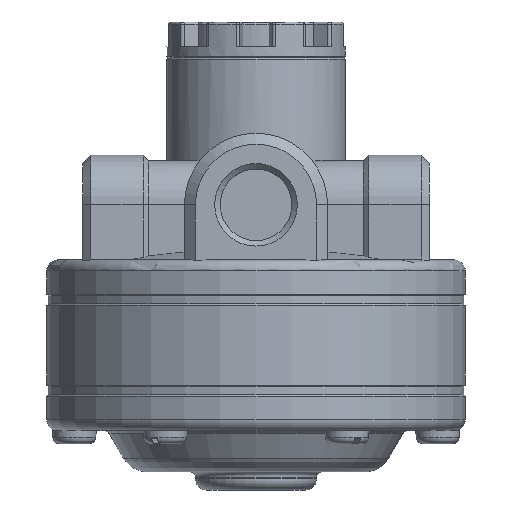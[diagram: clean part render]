
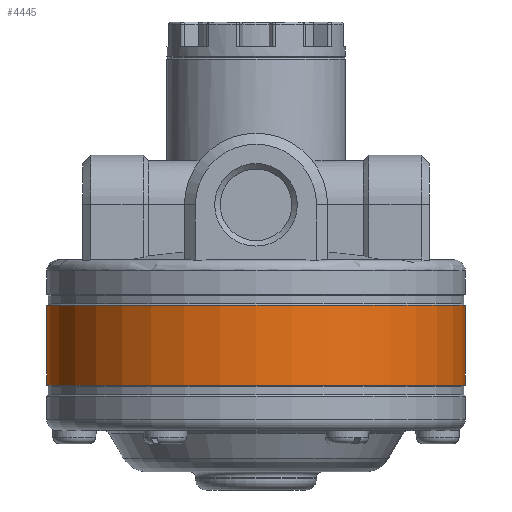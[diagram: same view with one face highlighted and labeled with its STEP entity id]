
A CAD part, front view. The second image highlights one B-rep face of the part: STEP entity #4445.
In plain terms, the highlighted cylindrical face has radius 38 mm (diameter 76 mm), a full revolution.
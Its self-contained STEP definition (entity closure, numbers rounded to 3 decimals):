
#424=CYLINDRICAL_SURFACE('',#5040,38.);
#684=FACE_OUTER_BOUND('',#977,.T.);
#977=EDGE_LOOP('',(#4071,#4072,#4073,#4074));
#1286=LINE('',#8206,#1553);
#1553=VECTOR('',#6419,38.);
#1845=CIRCLE('',#5039,38.);
#1846=CIRCLE('',#5041,38.);
#2232=VERTEX_POINT('',#8200);
#2233=VERTEX_POINT('',#8204);
#2854=EDGE_CURVE('',#2232,#2232,#1845,.T.);
#2855=EDGE_CURVE('',#2233,#2233,#1846,.T.);
#2856=EDGE_CURVE('',#2233,#2232,#1286,.T.);
#4071=ORIENTED_EDGE('',*,*,#2855,.F.);
#4072=ORIENTED_EDGE('',*,*,#2856,.T.);
#4073=ORIENTED_EDGE('',*,*,#2854,.F.);
#4074=ORIENTED_EDGE('',*,*,#2856,.F.);
#4445=ADVANCED_FACE('',(#684),#424,.T.);
#5039=AXIS2_PLACEMENT_3D('',#8202,#6413,#6414);
#5040=AXIS2_PLACEMENT_3D('',#8203,#6415,#6416);
#5041=AXIS2_PLACEMENT_3D('',#8205,#6417,#6418);
#6413=DIRECTION('center_axis',(0.,0.,1.));
#6414=DIRECTION('ref_axis',(1.,0.,0.));
#6415=DIRECTION('center_axis',(0.,0.,-1.));
#6416=DIRECTION('ref_axis',(1.,0.,0.));
#6417=DIRECTION('center_axis',(0.,0.,-1.));
#6418=DIRECTION('ref_axis',(1.,0.,0.));
#6419=DIRECTION('',(0.,0.,1.));
#8200=CARTESIAN_POINT('',(-38.,0.,-3.25));
#8202=CARTESIAN_POINT('Origin',(0.,0.,-3.25));
#8203=CARTESIAN_POINT('Origin',(0.,0.,-3.));
#8204=CARTESIAN_POINT('',(-38.,0.,-17.75));
#8205=CARTESIAN_POINT('Origin',(0.,0.,-17.75));
#8206=CARTESIAN_POINT('',(-38.,0.,-3.));
